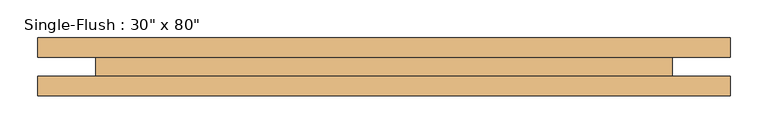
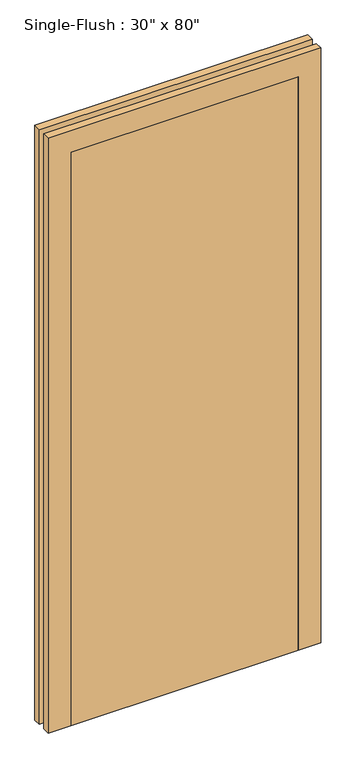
"""IFC4 building model written with IfcOpenShell, lengths in millimetres: door geometry."""

from ifc_helpers import new_model, si_unit, frame, origin, origin_with_axes, place, context, project, spatial, polyline, outline, extrude, source, transform, mapped, element, save


def door_b03708da(model_context):
    return source(origin(), model_context, "Body", "SweptSolid", [
        extrude(outline(polyline([(2108.2, -457.2), (0.0, -457.2), (0.0, -381.0), (2032.0, -381.0), (2032.0, 381.0), (0.0, 381.0), (0.0, 457.2), (2108.2, 457.2), (2108.2, -457.2)])), frame((0.0, 12.7, 0.0), z_axis=(0.0, 1.0, 0.0), x_axis=(0.0, 0.0, 1.0)), (0.0, 0.0, 1.0), 25.4),
        extrude(outline(polyline([(2108.2, 457.2), (2108.2, -457.2), (0.0, -457.2), (0.0, -381.0), (2032.0, -381.0), (2032.0, 381.0), (0.0, 381.0), (0.0, 457.2), (2108.2, 457.2)])), frame((0.0, -38.1, 0.0), z_axis=(0.0, 1.0, 0.0), x_axis=(0.0, 0.0, 1.0)), (0.0, 0.0, 1.0), 25.4),
        extrude(outline(polyline([(381.0, -38.1), (-381.0, -38.1), (-381.0, 12.7), (381.0, 12.7), (381.0, -38.1)])), origin_with_axes(), (0.0, 0.0, 1.0), 2032.0),
    ])


if __name__ == "__main__":
    model = new_model("IFC4")
    model_context = context("Model", 3, world=origin())
    ifc_project = project(units=[si_unit("LENGTHUNIT", "METRE", prefix="MILLI")], contexts=[model_context])
    site = spatial("IfcSite", under=ifc_project)
    building = spatial("IfcBuilding", under=site)
    placement = place(None, origin())
    door_shape = door_b03708da(model_context)
    element("IfcDoor", 1, ObjectType="Single-Flush : 30\" x 80\"", at=placement, inside=building, context=model_context, shape_type="MappedRepresentation", body=[
        mapped(door_shape, transform((0.0, 0.0, 0.0), x_axis=(1.0, 0.0, 0.0), y_axis=(0.0, 1.0, 0.0), z_axis=(0.0, 0.0, 1.0))),
    ])
    save(model, "model.ifc")
